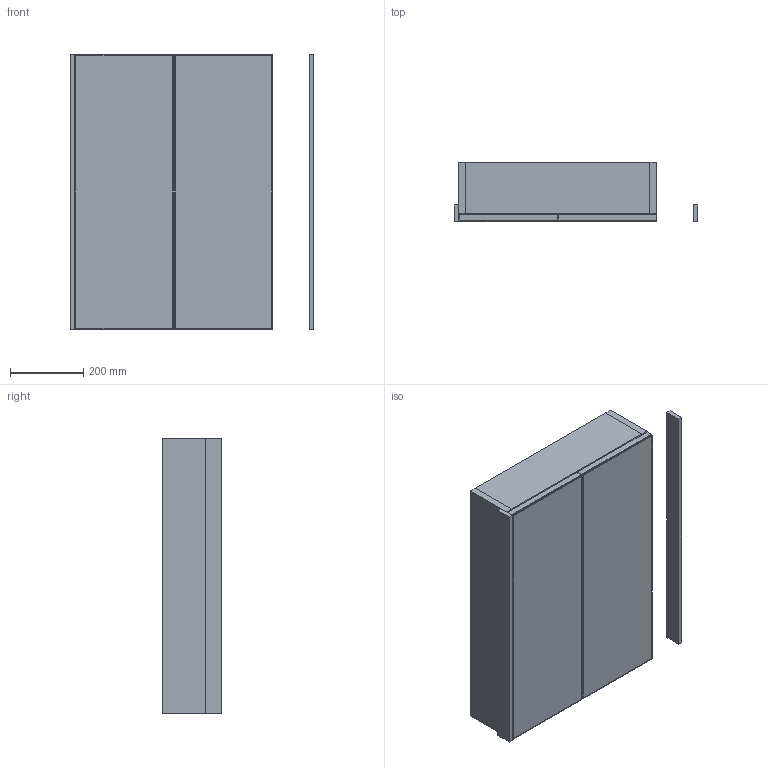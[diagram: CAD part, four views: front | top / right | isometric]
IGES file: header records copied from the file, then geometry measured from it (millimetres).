
Start section: Data from Parasolid IGES Translator 19.0.9, Copyright(c) 2006 Siemens PL M Software. All Rights Reserved.
Global section: file name: noorth-mirror-H 75 D 4,5-16 W 54_9134.igs; native system: By Siemens PLM Incorporated; preprocessor: XPlus GENERIC/IGES 19.0.9; author: Noname; organization: Noname; date: 20200519.105123; units: metre
Bounding box: 663.82 x 162 x 750 mm (x, y, z)
Volume: 17054650.9 mm3; surface area: 3682158.8 mm2
Topology: 14 solids, 14 shells, 168 faces, 324 edges, 184 vertices
Faces by surface type: plane 168
